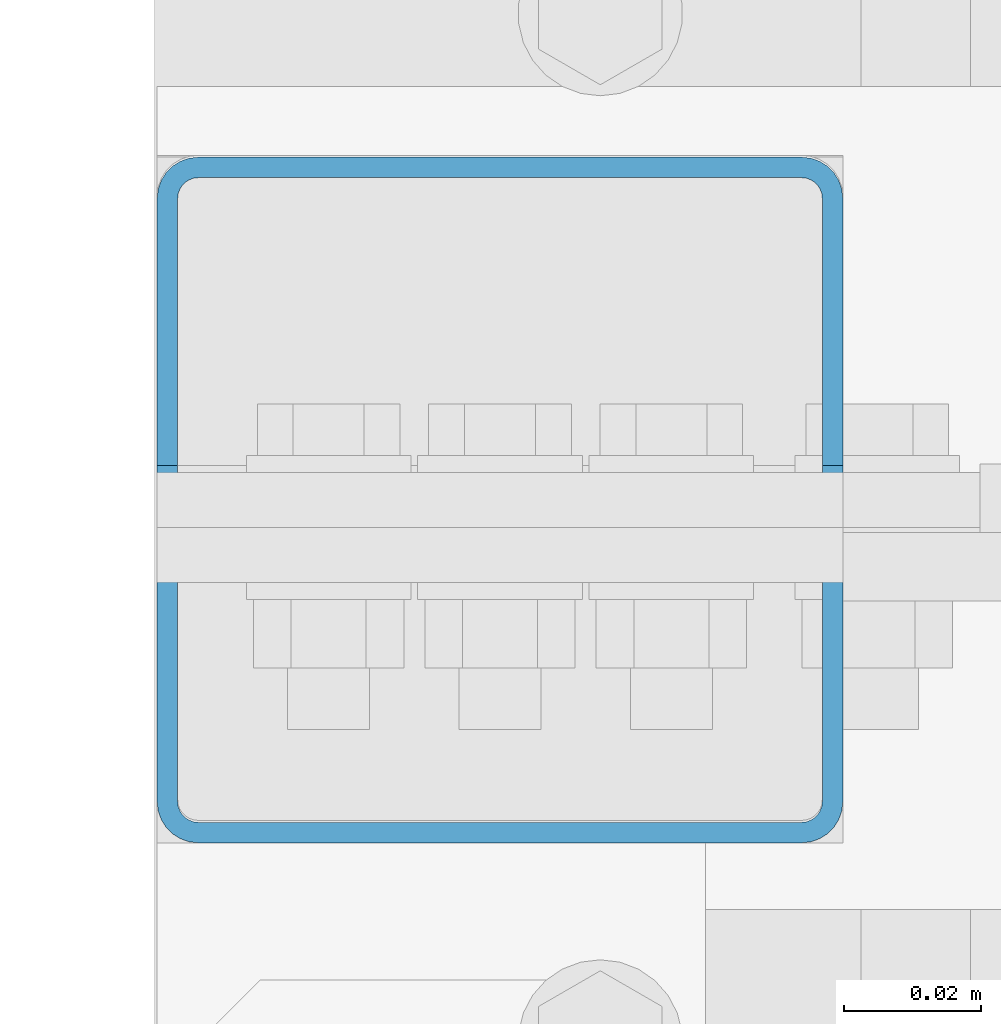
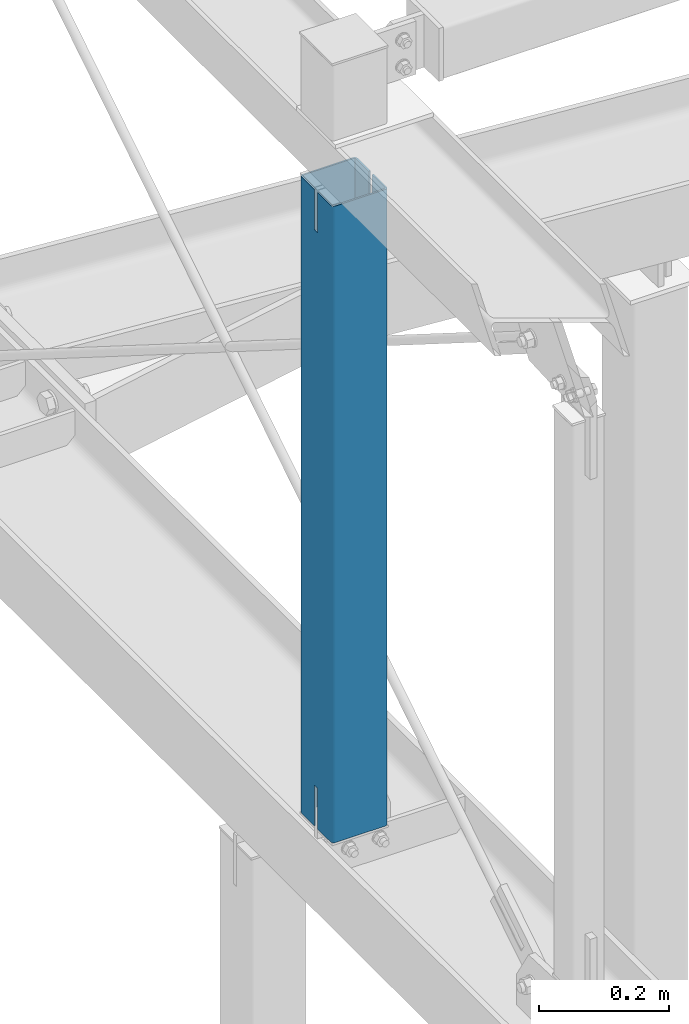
# One storey, part 13 of 271: 1 beam, 1 element without a shape of its own.
"""IFC2X3 building model written with IfcOpenShell, lengths in millimetres."""

from ifc_helpers import new_model, si_unit, frame, origin_with_axes, origin_2d_with_axis, place, context, subcontext, project, spatial, polyline, hollow_rectangle, outline, extrude, boolean, material, type_object, element, aggregate, save


model = new_model("IFC2X3")

# Units and contexts
model_context = context("Model", 3, precision=1e-05, world=origin_with_axes())
body_context = subcontext(model_context, "Body", "Model", "MODEL_VIEW")
ifc_project = project(units=[si_unit("LENGTHUNIT", "METRE", prefix="MILLI"), si_unit("AREAUNIT", "SQUARE_METRE"), si_unit("VOLUMEUNIT", "CUBIC_METRE"), si_unit("MASSUNIT", "GRAM", prefix="KILO"), si_unit("TIMEUNIT", "SECOND"), si_unit("PLANEANGLEUNIT", "RADIAN"), si_unit("SOLIDANGLEUNIT", "STERADIAN"), si_unit("THERMODYNAMICTEMPERATUREUNIT", "DEGREE_CELSIUS"), si_unit("LUMINOUSINTENSITYUNIT", "LUMEN")], contexts=[model_context])

# Site, building, storey
site_placement = place(None, origin_with_axes())
site = spatial("IfcSite", under=ifc_project, at=site_placement, Name="Undefined", CompositionType="ELEMENT")
building_placement = place(site_placement, origin_with_axes())
building = spatial("IfcBuilding", under=site, at=building_placement, Name="Undefined", CompositionType="ELEMENT")
storey_placement = place(building_placement, origin_with_axes())
storey = spatial("IfcBuildingStorey", under=building, at=storey_placement, Name="Undefined", CompositionType="ELEMENT", Elevation=0.0)

# Assembly, beam
assembly_placement = place(storey_placement, origin_with_axes())
assembly = element("IfcElementAssembly", 1, at=assembly_placement, inside=storey, AssemblyPlace="NOTDEFINED", PredefinedType="RIGID_FRAME")
ifc_material = material(Name="STEEL/S355JR")
beam_type = type_object("IfcBeamType", Name="SHS100*3", PredefinedType="NOTDEFINED")
beam_placement = place(assembly_placement, frame((38.3756870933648, 2799.05211980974, 19934.8499999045), z_axis=(0.0, 1.0, 0.0), x_axis=(0.0, 0.0, -1.0)))
beam = element("IfcBeam", 2, at=beam_placement, type_object=beam_type, material=ifc_material, Name="RYGIEL", ObjectType="SHS100*3", context=body_context, shape_type="CSG", body=[
    boolean("DIFFERENCE", boolean("DIFFERENCE", extrude(hollow_rectangle(XDim=100.0, YDim=100.0, WallThickness=3.0, InnerFilletRadius=3.0, OuterFilletRadius=6.0, at=origin_2d_with_axis()), frame((1199.0, 0.0, 0.0), z_axis=(-1.0, 0.0, 1.38777878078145e-17), x_axis=(0.0, -1.0, 0.0)), (0.0, 0.0, 1.0), 1199.0), extrude(outline(polyline([(0.0, 25.0), (70.0, -8.66862137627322e-13), (140.0, -1.81543668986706e-12), (140.0, 105.0), (80.0, 105.0), (80.0, 130.0), (-3.5527136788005e-14, 130.0), (0.0, 25.0)])), frame((76.0000000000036, -79.9999999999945, 5.00013555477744), z_axis=(0.0, 0.0, -1.0), x_axis=(-1.0, 0.0, 1.38777878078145e-17)), (0.0, 0.0, 1.0), 10.0)), extrude(outline(polyline([(0.0, 40.0), (80.0, 0.0), (151.0, -1.91135995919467e-12), (151.0, 120.0), (91.0, 120.0), (91.0, 150.0), (1.4210854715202e-14, 150.0), (0.0, 40.0)])), frame((1122.0, -99.9999999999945, -4.99999999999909), z_axis=(0.0, 0.0, 1.0), x_axis=(1.0, 0.0, 0.0)), (0.0, 0.0, 1.0), 10.0)),
])
aggregate(assembly, [beam])

save(model, "model.ifc")
